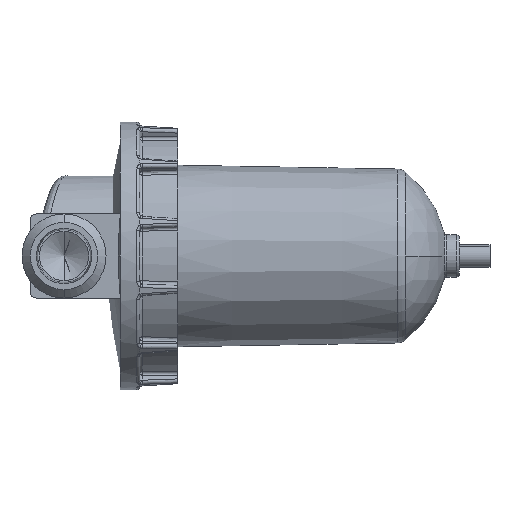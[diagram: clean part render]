
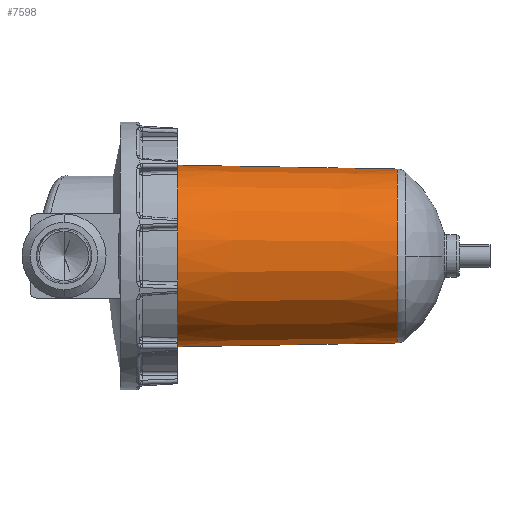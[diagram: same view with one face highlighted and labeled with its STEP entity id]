
A CAD part, left-side view. The second image highlights one B-rep face of the part: STEP entity #7598.
In plain terms, the highlighted conical face has half-angle 1 degrees and reference radius 31 mm.
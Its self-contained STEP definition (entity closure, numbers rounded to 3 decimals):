
#736 = DIRECTION ( 'NONE',  ( 0., 1., 0. ) ) ;
#1733 = DIRECTION ( 'NONE',  ( 0., 1., -0.017 ) ) ;
#2421 = AXIS2_PLACEMENT_3D ( 'NONE', #12667, #2824, #11475 ) ;
#2799 = CIRCLE ( 'NONE', #10234, 31.028 ) ;
#2824 = DIRECTION ( 'NONE',  ( 0., 1., 0. ) ) ;
#3059 = VERTEX_POINT ( 'NONE', #5188 ) ;
#3153 = ORIENTED_EDGE ( 'NONE', *, *, #11695, .T. ) ;
#4397 = AXIS2_PLACEMENT_3D ( 'NONE', #10678, #736, #11677 ) ;
#4446 = VECTOR ( 'NONE', #12091, 1000. ) ;
#4492 = CARTESIAN_POINT ( 'NONE',  ( 0., 0., 31. ) ) ;
#5188 = CARTESIAN_POINT ( 'NONE',  ( 0., 1.608, 31.028 ) ) ;
#5967 = VERTEX_POINT ( 'NONE', #8613 ) ;
#6030 = ORIENTED_EDGE ( 'NONE', *, *, #10950, .T. ) ;
#6442 = EDGE_CURVE ( 'NONE', #13934, #5967, #11703, .T. ) ;
#6565 = VECTOR ( 'NONE', #1733, 1000. ) ;
#6814 = CIRCLE ( 'NONE', #4397, 32.396 ) ;
#6955 = FACE_OUTER_BOUND ( 'NONE', #12507, .T. ) ;
#7480 = CONICAL_SURFACE ( 'NONE', #2421, 31., 0.017 ) ;
#7598 = ADVANCED_FACE ( 'NONE', ( #6955 ), #7480, .T. ) ;
#8282 = ORIENTED_EDGE ( 'NONE', *, *, #6442, .F. ) ;
#8564 = CARTESIAN_POINT ( 'NONE',  ( 0., 80., 32.396 ) ) ;
#8613 = CARTESIAN_POINT ( 'NONE',  ( 0., 80., -32.396 ) ) ;
#8961 = ORIENTED_EDGE ( 'NONE', *, *, #11201, .F. ) ;
#9408 = VERTEX_POINT ( 'NONE', #8564 ) ;
#10234 = AXIS2_PLACEMENT_3D ( 'NONE', #13948, #12757, #10533 ) ;
#10533 = DIRECTION ( 'NONE',  ( 0., 0., -1. ) ) ;
#10678 = CARTESIAN_POINT ( 'NONE',  ( 0., 80., 0. ) ) ;
#10950 = EDGE_CURVE ( 'NONE', #3059, #9408, #12438, .T. ) ;
#11197 = CARTESIAN_POINT ( 'NONE',  ( 0., 1.608, -31.028 ) ) ;
#11201 = EDGE_CURVE ( 'NONE', #5967, #9408, #6814, .T. ) ;
#11475 = DIRECTION ( 'NONE',  ( 0., 0., 1. ) ) ;
#11677 = DIRECTION ( 'NONE',  ( 0., 0., 1. ) ) ;
#11695 = EDGE_CURVE ( 'NONE', #13934, #3059, #2799, .T. ) ;
#11703 = LINE ( 'NONE', #12714, #6565 ) ;
#12091 = DIRECTION ( 'NONE',  ( 0., 1., 0.017 ) ) ;
#12438 = LINE ( 'NONE', #4492, #4446 ) ;
#12507 = EDGE_LOOP ( 'NONE', ( #8282, #3153, #6030, #8961 ) ) ;
#12667 = CARTESIAN_POINT ( 'NONE',  ( 0., 0., 0. ) ) ;
#12714 = CARTESIAN_POINT ( 'NONE',  ( 0., 0., -31. ) ) ;
#12757 = DIRECTION ( 'NONE',  ( 0., 1., 0. ) ) ;
#13934 = VERTEX_POINT ( 'NONE', #11197 ) ;
#13948 = CARTESIAN_POINT ( 'NONE',  ( 0., 1.608, 0. ) ) ;
